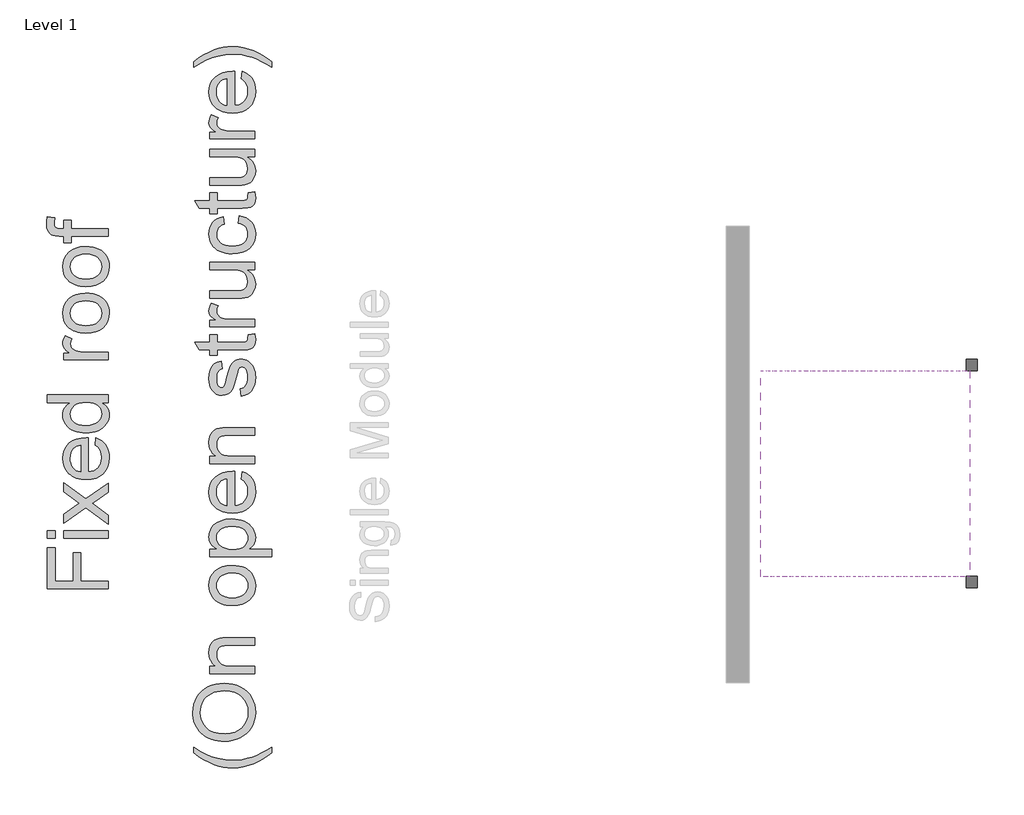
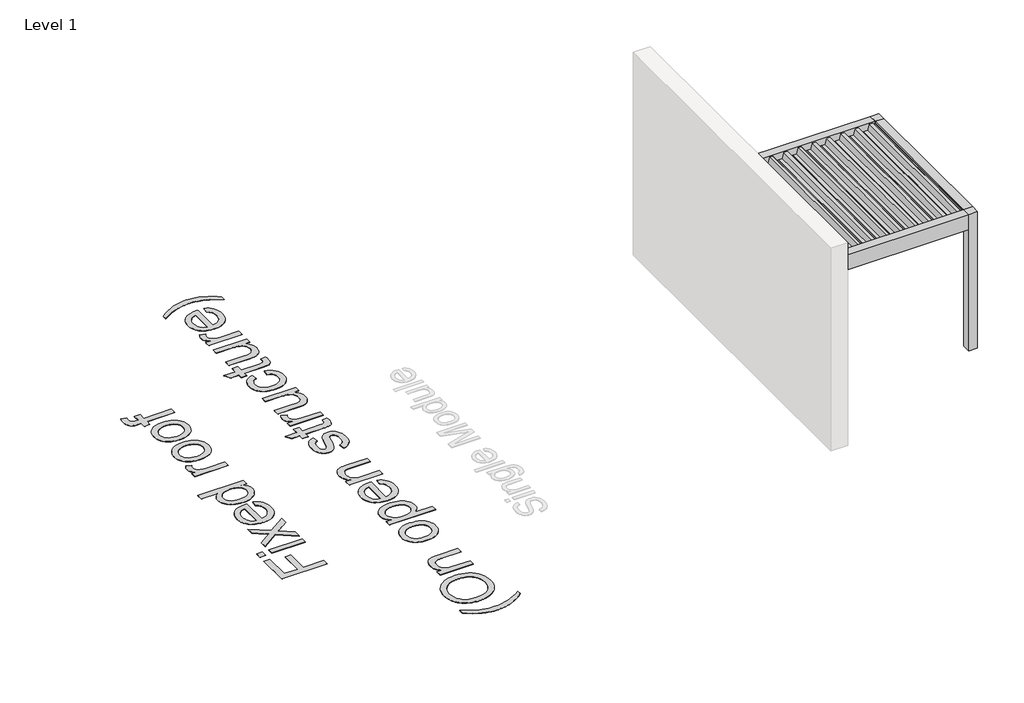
# One storey, part 72 of 80: 3 proxies.
"""IFC4 building model written with IfcOpenShell, lengths in millimetres."""

from ifc_helpers import new_model, si_unit, origin, origin_with_axes, place, context, project, spatial, polyline, outline, extrude, transform, mapped, element, save
from components import generic_models_15760fd8, generic_models_d4e71780

model = new_model("IFC4")

# Units and contexts
model_context = context("Model", 3, world=origin())
ifc_project = project(units=[si_unit("LENGTHUNIT", "METRE", prefix="MILLI")], contexts=[model_context])

# Site, building, storey
site = spatial("IfcSite", under=ifc_project)
building = spatial("IfcBuilding", under=site)
storey = spatial("IfcBuildingStorey", under=building, Name="Level 1", Elevation=0.0)

# Proxies
placement = place(None, origin())
generic_models_shape = generic_models_15760fd8(model_context)
element("IfcBuildingElementProxy", 1, Name="Renson_Amani_Fixed_Roof : Renson_Amani_Fixed_Roof", ObjectType="Renson_Amani_Fixed_Roof : Renson_Amani_Fixed_Roof", at=placement, inside=storey, context=model_context, shape_type="MappedRepresentation", body=[
    mapped(generic_models_shape, transform((225303.165057, 66168.5861401, 0.0), x_axis=(1.0, 0.0, 0.0), y_axis=(0.0, 1.0, 0.0), z_axis=(0.0, 0.0, 1.0))),
])
generic_models_2_shape = generic_models_d4e71780(model_context)
element("IfcBuildingElementProxy", 2, Name="Renson_Amani_Patio_Cover : Renson_Amani_Patio_Cover", ObjectType="Renson_Amani_Patio_Cover : Renson_Amani_Patio_Cover", at=placement, inside=storey, context=model_context, shape_type="MappedRepresentation", body=[
    mapped(generic_models_2_shape, transform((226653.165057, 67528.5861401, 0.0), x_axis=(1.0, 0.0, 0.0), y_axis=(0.0, 1.0, 0.0), z_axis=(0.0, 0.0, 1.0))),
])
element("IfcBuildingElementProxy", 3, Name="800mm Arial", ObjectType="800mm Arial", at=placement, inside=storey, context=model_context, shape_type="SweptSolid", body=[
    extrude(outline(polyline([(216731.971127, 66013.7751549), (215932.5824286, 66013.7751549), (215932.5824286, 66550.8644366), (216032.5060159, 66550.8644366), (216032.5060159, 66113.6987422), (216269.8245357, 66113.6987422), (216269.8245357, 66488.4121945), (216369.748123, 66488.4121945), (216369.748123, 66113.6987422), (216731.971127, 66113.6987422), (216731.971127, 66013.7751549)])), origin_with_axes(), (0.0, 0.0, 1.0), 5.0),
    extrude(outline(polyline([(216032.5060159, 66675.7689207), (215932.5824286, 66675.7689207), (215932.5824286, 66775.692508), (216032.5060159, 66775.692508), (216032.5060159, 66675.7689207)])), origin_with_axes(), (0.0, 0.0, 1.0), 5.0),
    extrude(outline(polyline([(216731.971127, 66675.7689207), (216144.9200516, 66675.7689207), (216144.9200516, 66775.692508), (216731.971127, 66775.692508), (216731.971127, 66675.7689207)])), origin_with_axes(), (0.0, 0.0, 1.0), 5.0),
    extrude(outline(polyline([(216731.971127, 66863.1256469), (216436.8842832, 67076.6342494), (216144.9200516, 66875.6160953), (216144.9200516, 66995.8366612), (216285.4375962, 67092.8327997), (216351.7931034, 67138.1106752), (216297.5377181, 67177.3384897), (216144.9200516, 67287.8008929), (216144.9200516, 67408.0214588), (216436.8842832, 67196.8548154), (216731.971127, 67400.2149286), (216731.971127, 67279.9943626), (216554.5677269, 67157.6270008), (216522.1706263, 67135.1832263), (216731.971127, 66983.3462128), (216731.971127, 66863.1256469)])), origin_with_axes(), (0.0, 0.0, 1.0), 5.0),
    extrude(outline(polyline([(216557.1048492, 67898.6618855), (216569.5952976, 67996.6338402), (216608.8353099, 67981.6123683), (216643.4157994, 67961.3336862), (216673.3367661, 67935.7977939), (216698.5982101, 67905.0046913), (216718.6634324, 67869.2715188), (216732.9957341, 67828.9154167), (216741.595115, 67783.936385), (216744.4615754, 67734.3344236), (216739.5154066, 67672.3334965), (216724.6769002, 67617.0900973), (216699.9460563, 67568.6042258), (216665.3228749, 67526.875882), (216621.7709744, 67493.3199996), (216570.2539736, 67469.3515122), (216510.7718723, 67454.9704197), (216443.3246707, 67450.1767222), (216373.5903996, 67455.0192105), (216312.1261716, 67469.5466754), (216258.9319865, 67493.7591169), (216235.4361601, 67509.4972039), (216214.0078444, 67527.656535), (216178.3173639, 67569.2750995), (216152.8241635, 67616.6509799), (216137.5282433, 67669.7841765), (216132.4296032, 67728.6746891), (216137.5160456, 67785.6684589), (216152.7753727, 67837.2098551), (216178.2075845, 67883.2988779), (216213.8126811, 67923.9355272), (216258.6392416, 67957.1071819), (216311.735845, 67980.801221), (216373.1024915, 67995.0176445), (216442.7391809, 67999.7564523), (216469.6717103, 67999.1709626), (216469.6717103, 67550.1003095), (216509.5460031, 67555.8881198), (216544.4680283, 67567.3966531), (216574.4377859, 67584.6259093), (216599.4552758, 67607.5758885), (216619.1789624, 67634.9780295), (216633.26731, 67665.5637711), (216641.7203186, 67699.3331133), (216644.5379881, 67736.2860561), (216639.317371, 67789.4680435), (216623.6555196, 67834.2580109), (216611.6651771, 67853.505987), (216596.5766178, 67870.6559582), (216578.3898419, 67885.7079243), (216557.1048492, 67898.6618855)]), holes=[polyline([(216369.748123, 67550.1003095), (216369.748123, 67899.832865), (216341.4738462, 67894.6976318), (216316.9564622, 67886.3178095), (216296.1959708, 67874.6933981), (216279.192372, 67859.8243975), (216258.7002301, 67832.5747278), (216244.0629859, 67801.5681654), (216235.2806393, 67766.8047104), (216232.3531905, 67728.2843626), (216234.6890507, 67693.1488776), (216241.6966314, 67660.9286438), (216253.3759325, 67631.623661), (216269.7269541, 67605.2339294), (216289.9934385, 67583.0889987), (216313.4191281, 67566.5184185), (216340.004023, 67555.5221887), (216369.748123, 67550.1003095)])]), origin_with_axes(), (0.0, 0.0, 1.0), 5.0),
    extrude(outline(polyline([(216731.971127, 68461.9030436), (216637.7072741, 68461.9030436), (216684.4122809, 68432.0064722), (216702.7606764, 68414.6887826), (216717.7730001, 68395.7914904), (216729.4492518, 68375.3145956), (216737.7894315, 68353.2580982), (216742.7935394, 68329.6219982), (216744.4615754, 68304.4062956), (216742.0464301, 68271.4237053), (216734.8009942, 68239.8072577), (216722.7252677, 68209.556953), (216705.8192506, 68180.672791), (216684.5891476, 68154.0574019), (216659.5411634, 68130.6134158), (216630.675298, 68110.3408325), (216597.9915514, 68093.2396522), (216562.1120065, 68079.6636081), (216523.6587461, 68069.9664338), (216482.6317703, 68064.1481292), (216439.0310791, 68062.2086944), (216396.2293374, 68063.9956579), (216355.4524145, 68069.3565486), (216316.7003104, 68078.2913665), (216279.9730251, 68090.8001114), (216246.3439564, 68106.8766847), (216216.8865024, 68126.5149874), (216191.600663, 68149.7150195), (216170.4864382, 68176.476781), (216153.8365729, 68205.85495), (216141.943812, 68236.9042043), (216134.8081554, 68269.624544), (216132.4296032, 68304.0159691), (216134.1311828, 68329.1676338), (216139.2359218, 68352.9043648), (216147.74382, 68375.2261623), (216159.6548775, 68396.1330261), (216190.9541847, 68432.7749275), (216230.4015579, 68461.9030436), (215932.5824286, 68461.9030436), (215932.5824286, 68561.8266308), (216731.971127, 68561.8266308), (216731.971127, 68461.9030436)]), holes=[polyline([(216438.6407525, 68162.1322817), (216487.0961298, 68164.9499512), (216529.0257357, 68173.4029597), (216564.4295702, 68187.4913073), (216593.3076333, 68207.2149939), (216615.7209135, 68230.7687594), (216631.7303994, 68256.3473437), (216641.3360909, 68283.9507468), (216644.5379881, 68313.5789687), (216641.4824633, 68343.3474641), (216632.3158891, 68370.7861982), (216617.0382655, 68395.8951709), (216595.6495923, 68418.6743823), (216567.9791019, 68437.5869216), (216533.8560263, 68451.0958782), (216493.2803655, 68459.2012522), (216446.2521195, 68461.9030436), (216394.6924267, 68459.1524614), (216350.4757514, 68450.900715), (216313.6020937, 68437.1478042), (216284.0714534, 68417.8937292), (216261.4447134, 68394.614412), (216245.2827562, 68368.7857748), (216235.5855819, 68340.4078176), (216232.3531905, 68309.4805403), (216235.457506, 68279.2668286), (216244.7704527, 68251.6634256), (216260.2920304, 68226.670331), (216282.0222393, 68204.2875451), (216310.4367896, 68185.8446173), (216346.011392, 68172.6710975), (216388.7460463, 68164.7669856), (216438.6407525, 68162.1322817)])]), origin_with_axes(), (0.0, 0.0, 1.0), 5.0),
    extrude(outline(polyline([(216731.971127, 69023.9732221), (216144.9200516, 69023.9732221), (216144.9200516, 69111.406361), (216231.7677007, 69111.406361), (216181.4155806, 69143.7058799), (216163.9972599, 69158.9042185), (216151.7507656, 69173.4682765), (216137.2598938, 69203.3282547), (216132.4296032, 69235.9205186), (216134.3568404, 69260.7062521), (216140.1385518, 69285.6871489), (216149.7747376, 69310.863209), (216163.2653977, 69336.2344324), (216252.8453324, 69302.8615155), (216237.476226, 69267.7321294), (216232.3531905, 69232.6027432), (216237.2810627, 69202.7671604), (216252.0646794, 69176.1029805), (216275.5818518, 69154.561836), (216306.7103912, 69140.0953597), (216362.5270825, 69127.9464469), (216423.4180185, 69123.8968094), (216731.971127, 69123.8968094), (216731.971127, 69023.9732221)])), origin_with_axes(), (0.0, 0.0, 1.0), 5.0),
    extrude(outline(polyline([(216438.4455893, 69373.7057776), (216362.4173032, 69379.1093603), (216328.3460678, 69385.8638386), (216296.9034376, 69395.3201082), (216268.0894124, 69407.4781692), (216241.9039924, 69422.3380216), (216218.3471774, 69439.8996652), (216197.4189676, 69460.1631002), (216168.9861207, 69498.2443306), (216148.6769443, 69540.277617), (216136.4914385, 69586.2629593), (216132.4296032, 69636.2003575), (216137.375772, 69691.3278786), (216152.2142783, 69741.1737941), (216176.9451222, 69785.7381039), (216211.5683037, 69825.0208081), (216254.9128432, 69857.0824718), (216305.8077611, 69879.9836602), (216364.2530576, 69893.7243732), (216430.2487325, 69898.3046109), (216483.7356625, 69896.2797921), (216531.1969269, 69890.2053357), (216572.6325258, 69880.0812418), (216608.0424591, 69865.9075103), (216638.6282007, 69847.861008), (216665.5912244, 69826.1186014), (216688.9315301, 69800.6802907), (216708.6491178, 69771.5460758), (216724.317068, 69739.8503432), (216735.508461, 69706.7274793), (216742.2232968, 69672.1774841), (216744.4615754, 69636.2003575), (216739.5337031, 69580.267788), (216724.7500865, 69529.9583598), (216700.1107253, 69485.2720729), (216665.6156198, 69446.2089274), (216621.8502595, 69414.4887993), (216569.4001344, 69391.831565), (216508.2652443, 69378.2372245), (216438.4455893, 69373.7057776)]), holes=[polyline([(216438.250426, 69473.6293649), (216486.718001, 69476.5202206), (216528.6842, 69485.1927878), (216564.149023, 69499.6470665), (216593.11247, 69519.8830567), (216615.6111342, 69544.4980224), (216631.6816086, 69572.0892278), (216641.3238932, 69602.6566728), (216644.5379881, 69636.2003575), (216641.3055966, 69669.5732743), (216631.6084223, 69700.0187424), (216615.4464652, 69727.5367615), (216592.8197251, 69752.1273318), (216563.5696321, 69772.363322), (216527.5376158, 69786.8176006), (216484.7236765, 69795.4901679), (216435.1278139, 69798.3810236), (216388.1971496, 69795.4718713), (216347.3287439, 69786.7444144), (216312.5225969, 69772.198653), (216283.7787086, 69751.8345869), (216261.2800444, 69727.1525338), (216245.20957, 69699.6528112), (216235.5672854, 69669.3354191), (216232.3531905, 69636.2003575), (216235.5550877, 69602.6566728), (216245.1607792, 69572.0892278), (216261.1702651, 69544.4980224), (216283.5835453, 69519.8830567), (216312.4616084, 69499.6470665), (216347.8654429, 69485.1927878), (216389.7950488, 69476.5202206), (216438.250426, 69473.6293649)])]), origin_with_axes(), (0.0, 0.0, 1.0), 5.0),
    extrude(outline(polyline([(216438.4455893, 69985.7377498), (216362.4173032, 69991.1413324), (216328.3460678, 69997.8958108), (216296.9034376, 70007.3520804), (216268.0894124, 70019.5101414), (216241.9039924, 70034.3699937), (216218.3471774, 70051.9316374), (216197.4189676, 70072.1950724), (216168.9861207, 70110.2763028), (216148.6769443, 70152.3095891), (216136.4914385, 70198.2949314), (216132.4296032, 70248.2323297), (216137.375772, 70303.3598508), (216152.2142783, 70353.2057662), (216176.9451222, 70397.7700761), (216211.5683037, 70437.0527803), (216254.9128432, 70469.114444), (216305.8077611, 70492.0156324), (216364.2530576, 70505.7563454), (216430.2487325, 70510.3365831), (216483.7356625, 70508.3117643), (216531.1969269, 70502.2373079), (216572.6325258, 70492.113214), (216608.0424591, 70477.9394825), (216638.6282007, 70459.8929801), (216665.5912244, 70438.1505736), (216688.9315301, 70412.7122629), (216708.6491178, 70383.578048), (216724.317068, 70351.8823154), (216735.508461, 70318.7594515), (216742.2232968, 70284.2094562), (216744.4615754, 70248.2323297), (216739.5337031, 70192.2997601), (216724.7500865, 70141.9903319), (216700.1107253, 70097.3040451), (216665.6156198, 70058.2408995), (216621.8502595, 70026.5207715), (216569.4001344, 70003.8635372), (216508.2652443, 69990.2691966), (216438.4455893, 69985.7377498)]), holes=[polyline([(216438.250426, 70085.6613371), (216486.718001, 70088.5521928), (216528.6842, 70097.22476), (216564.149023, 70111.6790387), (216593.11247, 70131.9150288), (216615.6111342, 70156.5299946), (216631.6816086, 70184.1211999), (216641.3238932, 70214.688645), (216644.5379881, 70248.2323297), (216641.3055966, 70281.6052465), (216631.6084223, 70312.0507145), (216615.4464652, 70339.5687337), (216592.8197251, 70364.159304), (216563.5696321, 70384.3952941), (216527.5376158, 70398.8495728), (216484.7236765, 70407.52214), (216435.1278139, 70410.4129958), (216388.1971496, 70407.5038435), (216347.3287439, 70398.7763866), (216312.5225969, 70384.2306251), (216283.7787086, 70363.8665591), (216261.2800444, 70339.184506), (216245.20957, 70311.6847834), (216235.5672854, 70281.3673913), (216232.3531905, 70248.2323297), (216235.5550877, 70214.688645), (216245.1607792, 70184.1211999), (216261.1702651, 70156.5299946), (216283.5835453, 70131.9150288), (216312.4616084, 70111.6790387), (216347.8654429, 70097.22476), (216389.7950488, 70088.5521928), (216438.250426, 70085.6613371)])]), origin_with_axes(), (0.0, 0.0, 1.0), 5.0),
    extrude(outline(polyline([(216731.971127, 70647.7315156), (216244.8436389, 70647.7315156), (216244.8436389, 70560.2983767), (216144.9200516, 70560.2983767), (216144.9200516, 70647.7315156), (216085.7855849, 70647.7315156), (216036.8483984, 70650.3662195), (216002.4508744, 70658.2703314), (215984.9715653, 70666.9550963), (215969.22433, 70678.3721468), (215942.9260812, 70709.4031046), (215932.936162, 70729.382943), (215925.8005055, 70752.8269292), (215921.5191115, 70779.7350632), (215920.0919802, 70810.1073449), (215922.8242658, 70853.4823787), (215931.0211226, 70901.2485857), (216024.6994857, 70886.6113415), (216020.0155675, 70829.0381808), (216024.1627867, 70791.054532), (216029.3468107, 70776.9478879), (216036.6044443, 70766.0980306), (216046.6919451, 70758.0292497), (216060.3655708, 70752.2658348), (216098.4711966, 70747.6551029), (216144.9200516, 70747.6551029), (216144.9200516, 70860.0691386), (216244.8436389, 70860.0691386), (216244.8436389, 70747.6551029), (216731.971127, 70747.6551029), (216731.971127, 70647.7315156)])), origin_with_axes(), (0.0, 0.0, 1.0), 5.0),
    extrude(outline(polyline([(218878.3354941, 63859.1728039), (218826.1415207, 63818.8349983), (218769.6783511, 63781.7417819), (218708.9459852, 63747.8931546), (218643.9444231, 63717.2891165), (218576.1983777, 63691.9300908), (218507.232562, 63673.8165011), (218437.0469759, 63662.9483472), (218365.6416195, 63659.3256293), (218302.8844348, 63662.0335195), (218241.4689976, 63670.15719), (218181.3953077, 63683.6966409), (218122.6633652, 63702.6518722), (218055.3076463, 63731.462848), (217988.0982999, 63767.1533285), (217921.0353259, 63809.7233138), (217854.1187244, 63859.1728039), (217854.1187244, 63934.1154943), (217949.1144394, 63875.3225633), (218012.3961253, 63840.6322945), (218087.5339791, 63808.7231021), (218165.7944449, 63784.4252767), (218265.766823, 63765.5432316), (218366.2271092, 63759.2492166), (218430.2833493, 63761.9815022), (218494.3273917, 63770.1783589), (218558.3592363, 63783.8397869), (218622.3788833, 63802.965786), (218686.3863326, 63827.5563563), (218750.3815841, 63857.6114978), (218814.364638, 63893.1312105), (218878.3354941, 63934.1154943), (218878.3354941, 63859.1728039)])), origin_with_axes(), (0.0, 0.0, 1.0), 5.0),
    extrude(outline(polyline([(218264.3518894, 64009.0581848), (218216.1252191, 64010.7231714), (218170.5881424, 64015.7181309), (218127.7406593, 64024.0430636), (218087.5827699, 64035.6979693), (218050.1144741, 64050.6828481), (218015.3357719, 64068.9977), (217983.2466633, 64090.6425249), (217953.8471484, 64115.6173228), (217927.5458502, 64143.2237753), (217904.7513917, 64172.7635639), (217885.463773, 64204.2366884), (217869.6829941, 64237.6431489), (217857.4090549, 64272.9829455), (217848.6419555, 64310.256078), (217843.3816958, 64349.4625466), (217841.6282759, 64390.6023511), (217844.9216559, 64444.382026), (217854.8017958, 64495.4538107), (217871.2686955, 64543.8177051), (217894.3223552, 64589.4737094), (217923.2675057, 64631.1410647), (217957.4088778, 64667.539012), (217996.7464717, 64698.6675514), (218041.2802873, 64724.5266829), (218089.9979152, 64744.848057), (218141.886946, 64759.3633242), (218196.9473797, 64768.0724845), (218255.1792163, 64770.9755379), (218314.1795083, 64767.9200132), (218369.9840019, 64758.753439), (218422.5926972, 64743.4758153), (218472.0055942, 64722.0871422), (218516.9175386, 64695.0936243), (218556.0233761, 64663.0014663), (218589.3231067, 64625.8106683), (218616.8167305, 64583.5212301), (218638.3334795, 64537.7981385), (218653.702586, 64490.3063798), (218662.9240498, 64441.0459541), (218665.9978711, 64390.0168614), (218662.6008107, 64335.2979634), (218652.4096294, 64283.555305), (218635.4243272, 64234.7888863), (218611.6449042, 64188.9987072), (218581.9922869, 64147.3801428), (218547.387402, 64111.1285679), (218507.8302495, 64080.2439826), (218463.3208293, 64054.7263868), (218415.6461051, 64034.7465484), (218366.5930403, 64020.4752353), (218316.1616351, 64011.9124474), (218264.3518894, 64009.0581848)]), holes=[polyline([(218265.3277057, 64108.9817721), (218331.5734335, 64113.9767317), (218390.3785622, 64128.9616105), (218441.7430918, 64153.9364085), (218485.6670222, 64188.9011256), (218520.8451991, 64231.4040236), (218545.9724684, 64278.9933639), (218561.04883, 64331.6691466), (218566.0742838, 64389.4313716), (218561.0000392, 64448.1816106), (218545.7773052, 64501.4794762), (218520.4060818, 64549.3249683), (218484.8863691, 64591.7180869), (218463.5251408, 64610.3119612), (218440.0354133, 64626.4266523), (218386.6704603, 64651.2184847), (218324.7915104, 64666.0935842), (218254.3985633, 64671.0519506), (218208.6693728, 64668.9295502), (218165.9408173, 64662.562349), (218126.2128969, 64651.9503469), (218089.4856116, 64637.093544), (218056.2407707, 64618.1566093), (218026.9601833, 64595.3042117), (218001.6438497, 64568.5363513), (217980.2917696, 64537.8530281), (217963.3430606, 64504.2056629), (217951.2368398, 64468.5456767), (217943.9731074, 64430.8730693), (217941.5518632, 64391.1878409), (217946.2174848, 64335.4321381), (217960.2143496, 64283.7016774), (217983.5424576, 64235.9964589), (218016.2018088, 64192.3164826), (218036.4240766, 64172.7849098), (218059.765907, 64155.8575468), (218086.2273001, 64141.5343934), (218115.8082558, 64129.8154497), (218148.5087743, 64120.7007158), (218184.3288554, 64114.1901915), (218265.3277057, 64108.9817721)])]), origin_with_axes(), (0.0, 0.0, 1.0), 5.0),
    extrude(outline(polyline([(218653.5074227, 64895.880022), (218066.4563474, 64895.880022), (218066.4563474, 64995.8036093), (218148.4249151, 64995.8036093), (218126.2860832, 65012.2888057), (218107.0990955, 65030.5182736), (218090.8639521, 65050.4920131), (218077.580653, 65072.2100242), (218067.2491981, 65095.672307), (218059.8695875, 65120.8788613), (218053.9658989, 65176.5247848), (218058.7230033, 65225.7791116), (218072.9943164, 65270.8862193), (218094.9989736, 65308.503937), (218122.9561101, 65335.2900939), (218156.7925397, 65353.4646722), (218196.4350761, 65365.2476538), (218234.3455387, 65369.1997097), (218293.0408881, 65370.5170617), (218653.5074227, 65370.5170617), (218653.5074227, 65270.5934744), (218306.5071528, 65270.5934744), (218254.8376806, 65267.7148164), (218218.0981976, 65259.0788423), (218191.7755534, 65243.1486415), (218171.3565977, 65218.3873033), (218158.2562641, 65186.6488787), (218153.8894862, 65149.7874187), (218156.3412246, 65119.4456311), (218163.6964399, 65091.2628371), (218175.9551319, 65065.2390367), (218193.1173008, 65041.3742297), (218217.134579, 65021.4370833), (218249.9585992, 65007.1962644), (218291.5893614, 64998.6517731), (218342.0268654, 64995.8036093), (218653.5074227, 64995.8036093), (218653.5074227, 64895.880022)])), origin_with_axes(), (0.0, 0.0, 1.0), 5.0),
    extrude(outline(polyline([(218359.981885, 65795.1923077), (218283.9535989, 65800.5958903), (218249.8823636, 65807.3503687), (218218.4397333, 65816.8066383), (218189.6257081, 65828.9646993), (218163.4402881, 65843.8245516), (218139.8834732, 65861.3861953), (218118.9552633, 65881.6496303), (218090.5224164, 65919.7308607), (218070.21324, 65961.764147), (218058.0277342, 66007.7494893), (218053.9658989, 66057.6868876), (218058.9120677, 66112.8144087), (218073.7505741, 66162.6603241), (218098.481418, 66207.224634), (218133.1045994, 66246.5073382), (218176.4491389, 66278.5690019), (218227.3440569, 66301.4701903), (218285.7893533, 66315.2109033), (218351.7850283, 66319.791141), (218405.2719582, 66317.7663222), (218452.7332226, 66311.6918658), (218494.1688215, 66301.5677719), (218529.5787549, 66287.3940404), (218560.1644965, 66269.347538), (218587.1275201, 66247.6051315), (218610.4678258, 66222.1668208), (218630.1854136, 66193.0326059), (218645.8533637, 66161.3368733), (218657.0447567, 66128.2140094), (218663.7595925, 66093.6640141), (218665.9978711, 66057.6868876), (218661.0699989, 66001.7543181), (218646.2863822, 65951.4448899), (218621.6470211, 65906.758603), (218587.1519155, 65867.6954574), (218543.3865553, 65835.9753294), (218490.9364301, 65813.3180951), (218429.80154, 65799.7237545), (218359.981885, 65795.1923077)]), holes=[polyline([(218359.7867218, 65895.115895), (218408.2542967, 65898.0067507), (218450.2204957, 65906.6793179), (218485.6853187, 65921.1335966), (218514.6487658, 65941.3695867), (218537.1474299, 65965.9845525), (218553.2179043, 65993.5757578), (218562.8601889, 66024.1432029), (218566.0742838, 66057.6868876), (218562.8418924, 66091.0598044), (218553.1447181, 66121.5052724), (218536.9827609, 66149.0232916), (218514.3560209, 66173.6138619), (218485.1059278, 66193.849852), (218449.0739116, 66208.3041307), (218406.2599722, 66216.9766979), (218356.6641097, 66219.8675537), (218309.7334454, 66216.9584014), (218268.8650397, 66208.2309445), (218234.0588927, 66193.6851831), (218205.3150043, 66173.321117), (218182.8163402, 66148.6390639), (218166.7458658, 66121.1393413), (218157.1035811, 66090.8219492), (218153.8894862, 66057.6868876), (218157.0913834, 66024.1432029), (218166.6970749, 65993.5757578), (218182.7065608, 65965.9845525), (218205.1198411, 65941.3695867), (218233.9979042, 65921.1335966), (218269.4017386, 65906.6793179), (218311.3313445, 65898.0067507), (218359.7867218, 65895.115895)])]), origin_with_axes(), (0.0, 0.0, 1.0), 5.0),
    extrude(outline(polyline([(218878.3354941, 66432.2051767), (218066.4563474, 66432.2051767), (218066.4563474, 66532.128764), (218164.4283021, 66532.128764), (218116.1010007, 66564.7210278), (218097.1152752, 66582.4808841), (218081.5814997, 66601.2165567), (218069.4996744, 66621.4647446), (218060.8697991, 66643.7621466), (218055.691874, 66668.1087629), (218053.9658989, 66694.5045933), (218056.3810442, 66729.3534323), (218063.6264801, 66762.0798709), (218075.7022066, 66792.683909), (218092.6082237, 66821.1655467), (218113.9054141, 66846.9027012), (218139.1546604, 66869.2732894), (218168.3559626, 66888.2773115), (218201.5093208, 66903.9147675), (218237.4803485, 66916.1246687), (218275.1346593, 66924.8460267), (218314.4722532, 66930.0788415), (218355.4931301, 66931.8231131), (218399.3499732, 66929.853184), (218440.950241, 66923.9433967), (218480.2939338, 66914.0937511), (218517.3810513, 66900.3042472), (218551.2418763, 66882.7639495), (218580.9066913, 66861.6619224), (218606.3754963, 66836.9981659), (218627.6482912, 66808.77268), (218644.4262324, 66778.3699039), (218656.4104761, 66747.1742771), (218663.6010224, 66715.1857996), (218665.9978711, 66682.4044714), (218664.3938731, 66658.8202116), (218659.5818791, 66636.4679199), (218651.561889, 66615.3475963), (218640.3339029, 66595.4592407), (218611.2789731, 66560.3542499), (218575.4421201, 66532.128764), (218878.3354941, 66532.128764), (218878.3354941, 66432.2051767)]), holes=[polyline([(218364.6658032, 66532.128764), (218412.8223367, 66534.8305553), (218454.2457379, 66542.9359293), (218488.9360067, 66556.4448859), (218516.8931432, 66575.3574253), (218538.4098922, 66598.1244389), (218553.7789987, 66623.1968185), (218563.0004625, 66650.5745641), (218566.0742838, 66680.2576756), (218562.8906832, 66710.3677067), (218553.3398813, 66738.2455582), (218537.4218782, 66763.8912298), (218515.1366739, 66787.3047217), (218486.167128, 66806.8149485), (218450.1961003, 66820.7508248), (218407.2235908, 66829.1123506), (218357.2495994, 66831.8995258), (218309.5077878, 66829.179438), (218268.1575729, 66821.0191743), (218233.1989546, 66807.4187349), (218204.6319329, 66788.3781197), (218182.4321125, 66765.5562164), (218166.5750979, 66740.6119126), (218157.0608892, 66713.5452085), (218153.8894862, 66684.356104), (218157.2621513, 66655.2584822), (218167.3801463, 66627.8807366), (218184.2434715, 66602.2228673), (218207.8521266, 66578.2848741), (218237.8889716, 66558.0915759), (218274.036866, 66543.6677915), (218316.2958098, 66535.0135208), (218364.6658032, 66532.128764)])]), origin_with_axes(), (0.0, 0.0, 1.0), 5.0),
    extrude(outline(polyline([(218478.6411449, 67455.2509669), (218491.1315934, 67553.2229216), (218530.3716056, 67538.2014497), (218564.9520951, 67517.9227676), (218594.8730618, 67492.3868753), (218620.1345059, 67461.5937727), (218640.1997282, 67425.8606002), (218654.5320298, 67385.5044981), (218663.1314108, 67340.5254664), (218665.9978711, 67290.923505), (218661.0517023, 67228.9225779), (218646.213196, 67173.6791787), (218621.4823521, 67125.1933071), (218586.8591706, 67083.4649634), (218543.3072702, 67049.909081), (218491.7902693, 67025.9405935), (218432.3081681, 67011.5595011), (218364.8609664, 67006.7658036), (218295.1266954, 67011.6082919), (218233.6624673, 67026.1357568), (218180.4682822, 67050.3481983), (218156.9724558, 67066.0862853), (218135.5441401, 67084.2456164), (218099.8536596, 67125.8641808), (218074.3604592, 67173.2400613), (218059.064539, 67226.3732579), (218053.9658989, 67285.2637705), (218059.0523413, 67342.2575403), (218074.3116684, 67393.7989365), (218099.7438803, 67439.8879593), (218135.3489769, 67480.5246086), (218180.1755373, 67513.6962633), (218233.2721408, 67537.3903024), (218294.6387872, 67551.6067259), (218364.2754767, 67556.3455337), (218391.2080061, 67555.7600439), (218391.2080061, 67106.6893909), (218431.0822989, 67112.4772012), (218466.0043241, 67123.9857345), (218495.9740817, 67141.2149907), (218520.9915716, 67164.1649699), (218540.7152582, 67191.5671109), (218554.8036058, 67222.1528525), (218563.2566143, 67255.9221947), (218566.0742838, 67292.8751375), (218560.8536667, 67346.0571249), (218545.1918154, 67390.8470923), (218533.2014728, 67410.0950684), (218518.1129136, 67427.2450396), (218499.9261376, 67442.2970057), (218478.6411449, 67455.2509669)]), holes=[polyline([(218291.2844188, 67106.6893909), (218291.2844188, 67456.4219464), (218263.010142, 67451.2867132), (218238.4927579, 67442.9068909), (218217.7322665, 67431.2824795), (218200.7286678, 67416.4134789), (218180.2365259, 67389.1638092), (218165.5992816, 67358.1572468), (218156.8169351, 67323.3937918), (218153.8894862, 67284.873444), (218156.2253465, 67249.737959), (218163.2329271, 67217.5177251), (218174.9122283, 67188.2127424), (218191.2632498, 67161.8230108), (218211.5297343, 67139.6780801), (218234.9554239, 67123.1074998), (218261.5403187, 67112.1112701), (218291.2844188, 67106.6893909)])]), origin_with_axes(), (0.0, 0.0, 1.0), 5.0),
    extrude(outline(polyline([(218653.5074227, 67656.269121), (218066.4563474, 67656.269121), (218066.4563474, 67756.1927083), (218148.4249151, 67756.1927083), (218126.2860832, 67772.6779046), (218107.0990955, 67790.9073725), (218090.8639521, 67810.8811121), (218077.580653, 67832.5991232), (218067.2491981, 67856.0614059), (218059.8695875, 67881.2679603), (218053.9658989, 67936.9138838), (218058.7230033, 67986.1682106), (218072.9943164, 68031.2753182), (218094.9989736, 68068.8930359), (218122.9561101, 68095.6791929), (218156.7925397, 68113.8537711), (218196.4350761, 68125.6367527), (218234.3455387, 68129.5888087), (218293.0408881, 68130.9061606), (218653.5074227, 68130.9061606), (218653.5074227, 68030.9825734), (218306.5071528, 68030.9825734), (218254.8376806, 68028.1039153), (218218.0981976, 68019.4679412), (218191.7755534, 68003.5377404), (218171.3565977, 67978.7764023), (218158.2562641, 67947.0379777), (218153.8894862, 67910.1765176), (218156.3412246, 67879.8347301), (218163.6964399, 67851.6519361), (218175.9551319, 67825.6281356), (218193.1173008, 67801.7633287), (218217.134579, 67781.8261823), (218249.9585992, 67767.5853634), (218291.5893614, 67759.0408721), (218342.0268654, 67756.1927083), (218653.5074227, 67756.1927083), (218653.5074227, 67656.269121)])), origin_with_axes(), (0.0, 0.0, 1.0), 5.0),
    extrude(outline(polyline([(218478.6411449, 68543.0909582), (218466.1506965, 68643.0145455), (218488.9360067, 68649.0524088), (218508.8914497, 68658.7739785), (218526.0170254, 68672.1792547), (218540.312734, 68689.2682373), (218551.583412, 68710.0897172), (218559.6338964, 68734.6924852), (218564.464187, 68763.0765413), (218566.0742838, 68795.2418855), (218564.5983617, 68827.3706366), (218560.1705953, 68855.0594236), (218552.7909847, 68878.3082466), (218542.4595298, 68897.1171054), (218530.1398492, 68911.6323726), (218516.7955616, 68922.0004206), (218502.4266668, 68928.2212494), (218487.033165, 68930.294859), (218473.5425049, 68928.2090517), (218461.56436, 68921.9516298), (218451.0987304, 68911.5225933), (218442.145616, 68896.9219421), (218429.4600043, 68859.4993877), (218413.6517805, 68794.070906), (218387.2803455, 68702.8808744), (218364.7633848, 68643.6000353), (218340.1972099, 68605.5188049), (218324.9317839, 68590.4119491), (218307.6781323, 68577.9275995), (218269.2797616, 68561.1679549), (218227.0757074, 68555.5814066), (218188.3601964, 68560.0701615), (218152.6209251, 68573.5364262), (218121.272827, 68594.7604304), (218095.7308358, 68622.5224036), (218079.6542626, 68650.113609), (218066.1636025, 68686.0480436), (218057.0153248, 68727.5934218), (218053.9658989, 68772.017458), (218058.8693758, 68837.0556132), (218073.5798062, 68893.6041668), (218096.6578613, 68939.0772055), (218110.7949997, 68956.6906894), (218126.664212, 68970.8888163), (218165.8188403, 68991.966448), (218216.3417283, 69005.2375495), (218228.8321767, 68905.3139622), (218212.1396194, 68900.5507589), (218197.386497, 68892.7015367), (218184.5728095, 68881.7662955), (218173.6985568, 68867.7450353), (218165.0320884, 68850.5767676), (218158.8417539, 68830.2005038), (218153.8894862, 68779.8239883), (218158.6221952, 68722.4459909), (218164.5380814, 68700.9292419), (218172.8203221, 68684.1939926), (218193.312464, 68662.6772436), (218204.7295145, 68657.2980564), (218216.9272181, 68655.5049939), (218232.2963245, 68658.4812336), (218246.0065433, 68667.4099526), (218258.2530376, 68682.6814774), (218268.0599913, 68704.6861346), (218289.3327862, 68790.7531306), (218315.4358717, 68879.0401088), (218336.367131, 68937.4183178), (218358.8596963, 68976.1582242), (218389.6467, 69005.5302943), (218408.1750117, 69016.3313608), (218428.8257237, 69024.0464083), (218451.5988362, 69028.6754368), (218476.4943491, 69030.2184463), (218501.4996413, 69028.4070873), (218525.7730714, 69022.9730104), (218549.3146392, 69013.9162155), (218572.1243448, 69001.2367027), (218593.2934592, 68985.1418329), (218611.9132537, 68965.8389671), (218627.9837281, 68943.3281052), (218641.5048824, 68917.6092473), (218652.220565, 68889.3837614), (218659.8746239, 68859.3530153), (218664.4670593, 68827.5170091), (218665.9978711, 68793.8757427), (218663.0460269, 68740.0960679), (218654.1904941, 68693.1227116), (218639.4312728, 68652.9556739), (218618.7683631, 68619.5949547), (218592.2993464, 68592.3452851), (218560.1218045, 68570.5113958), (218522.2357373, 68554.0932868), (218478.6411449, 68543.0909582)])), origin_with_axes(), (0.0, 0.0, 1.0), 5.0),
    extrude(outline(polyline([(218570.1727122, 69354.970105), (218656.4348715, 69367.4605534), (218663.6071212, 69327.8912032), (218665.9978711, 69292.7130262), (218661.8506519, 69244.7516559), (218649.4089943, 69208.9879892), (218630.2342044, 69183.7143475), (218605.8875881, 69167.2230523), (218564.0738604, 69158.1479609), (218492.4977361, 69155.1229304), (218166.3799347, 69155.1229304), (218166.3799347, 69080.1802399), (218066.4563474, 69080.1802399), (218066.4563474, 69155.1229304), (217923.7920069, 69155.1229304), (217865.0478667, 69255.0465177), (218066.4563474, 69255.0465177), (218066.4563474, 69354.970105), (218166.3799347, 69354.970105), (218166.3799347, 69255.0465177), (218489.5702873, 69255.0465177), (218522.455296, 69256.3638697), (218541.093387, 69260.3159256), (218551.4126442, 69267.2198258), (218559.3411515, 69277.3927106), (218564.3910007, 69291.8103961), (218566.0742838, 69311.4486988), (218570.1727122, 69354.970105)])), origin_with_axes(), (0.0, 0.0, 1.0), 5.0),
    extrude(outline(polyline([(218653.5074227, 69454.8936923), (218066.4563474, 69454.8936923), (218066.4563474, 69542.3268312), (218153.3039965, 69542.3268312), (218102.9518763, 69574.6263501), (218085.5335557, 69589.8246887), (218073.2870613, 69604.3887467), (218058.7961895, 69634.2487249), (218053.9658989, 69666.8409888), (218055.8931361, 69691.6267223), (218061.6748476, 69716.6076191), (218071.3110334, 69741.7836792), (218084.8016935, 69767.1549026), (218174.3816282, 69733.7819857), (218159.0125217, 69698.6525996), (218153.8894862, 69663.5232134), (218158.8173585, 69633.6876306), (218173.6009751, 69607.0234507), (218197.1181475, 69585.4823062), (218228.2466869, 69571.0158299), (218284.0633783, 69558.8669171), (218344.9543143, 69554.8172796), (218653.5074227, 69554.8172796), (218653.5074227, 69454.8936923)])), origin_with_axes(), (0.0, 0.0, 1.0), 5.0),
    extrude(outline(polyline([(218653.5074227, 70204.320597), (218552.6080191, 70204.320597), (218579.1837657, 70186.9876603), (218602.2160794, 70168.1666037), (218621.7049602, 70147.8574273), (218637.6504081, 70126.0601311), (218650.0524232, 70102.7747151), (218658.9110054, 70078.0011792), (218664.2261547, 70051.7395236), (218665.9978711, 70023.989748), (218661.0212081, 69975.320911), (218646.091219, 69930.0186401), (218623.6474445, 69892.0105959), (218596.1294253, 69865.2244389), (218562.7077176, 69847.1962331), (218522.5528776, 69835.4620423), (218484.6912059, 69831.070869), (218429.6551676, 69829.6071446), (218066.4563474, 69829.6071446), (218066.4563474, 69929.5307319), (218382.6208228, 69929.5307319), (218445.8537179, 69931.0432472), (218484.4960426, 69935.5807929), (218502.5059519, 69941.5637664), (218518.4788447, 69950.1448509), (218532.4147209, 69961.3240462), (218544.3135807, 69975.1013523), (218553.8338883, 69991.0620474), (218560.634108, 70008.7914094), (218566.0742838, 70049.5561346), (218560.512131, 70092.6628189), (218543.8256726, 70132.9884267), (218531.6950564, 70151.0349291), (218517.5518192, 70166.2393666), (218501.3959609, 70178.6017391), (218483.2274815, 70188.1220467), (218436.2175321, 70200.2709594), (218371.8868437, 70204.320597), (218066.4563474, 70204.320597), (218066.4563474, 70304.2441843), (218653.5074227, 70304.2441843), (218653.5074227, 70204.320597)])), origin_with_axes(), (0.0, 0.0, 1.0), 5.0),
    extrude(outline(polyline([(218441.1697997, 70816.3525691), (218453.6602481, 70916.2761564), (218500.8104711, 70905.4080026), (218542.532716, 70888.4166016), (218578.8269829, 70865.3019534), (218609.6932716, 70836.064058), (218634.3265339, 70801.9348836), (218651.9217212, 70764.146398), (218662.4788336, 70722.6986015), (218665.9978711, 70677.5914938), (218661.0882954, 70621.549145), (218646.3595684, 70571.3007053), (218621.8116901, 70526.8461748), (218587.4446604, 70488.1855534), (218543.9049577, 70456.8923451), (218491.8390602, 70434.5400533), (218431.2469679, 70421.1286783), (218362.1286809, 70416.65822), (218316.1860305, 70418.5671606), (218273.2074221, 70424.2939824), (218233.1928557, 70433.8386854), (218196.1423313, 70447.2012696), (218162.7999087, 70464.4732178), (218133.9096479, 70485.7460127), (218109.4715488, 70511.0196545), (218089.4856116, 70540.2941429), (218073.9457373, 70572.2460273), (218062.8458271, 70605.5518568), (218056.185881, 70640.2116314), (218053.9658989, 70676.225351), (218057.0153248, 70720.5579045), (218066.1636025, 70760.6578548), (218081.4107319, 70796.5252021), (218102.7567131, 70828.1599462), (218129.7136378, 70855.0253882), (218161.7935981, 70876.5848292), (218198.9965939, 70892.8382691), (218241.3226251, 70903.785708), (218253.8130735, 70803.8621207), (218230.4727678, 70796.0616893), (218210.2184811, 70785.7363333), (218193.0502134, 70772.8860526), (218178.9679647, 70757.5108473), (218167.9961304, 70740.0010439), (218160.1591059, 70720.7469689), (218155.4568911, 70699.7486223), (218153.8894862, 70677.006004), (218156.9755052, 70643.0536963), (218166.2335622, 70612.4313616), (218181.6636572, 70585.1389999), (218203.2657901, 70561.1766114), (218231.5400669, 70541.6663846), (218266.9865933, 70527.7305083), (218309.6053695, 70519.3689825), (218359.3963953, 70516.5818073), (218409.9375798, 70519.307994), (218453.0503629, 70527.4865542), (218488.7347446, 70541.1174879), (218516.9907248, 70560.2007951), (218538.4647819, 70583.6874732), (218553.8033941, 70610.5285198), (218563.0065614, 70640.7239349), (218566.0742838, 70674.2737185), (218564.1592444, 70701.3099283), (218558.414126, 70726.0163768), (218548.8389287, 70748.3930639), (218535.4336526, 70768.4399897), (218518.051925, 70785.5960597), (218496.5473737, 70799.3001796), (218470.9199986, 70809.5523494), (218441.1697997, 70816.3525691)])), origin_with_axes(), (0.0, 0.0, 1.0), 5.0),
    extrude(outline(polyline([(218570.1727122, 71216.0469183), (218656.4348715, 71228.5373667), (218663.6071212, 71188.9680165), (218665.9978711, 71153.7898395), (218661.8506519, 71105.8284692), (218649.4089943, 71070.0648025), (218630.2342044, 71044.7911608), (218605.8875881, 71028.2998656), (218564.0738604, 71019.2247742), (218492.4977361, 71016.1997437), (218166.3799347, 71016.1997437), (218166.3799347, 70941.2570533), (218066.4563474, 70941.2570533), (218066.4563474, 71016.1997437), (217923.7920069, 71016.1997437), (217865.0478667, 71116.123331), (218066.4563474, 71116.123331), (218066.4563474, 71216.0469183), (218166.3799347, 71216.0469183), (218166.3799347, 71116.123331), (218489.5702873, 71116.123331), (218522.455296, 71117.440683), (218541.093387, 71121.3927389), (218551.4126442, 71128.2966391), (218559.3411515, 71138.4695239), (218564.3910007, 71152.8872094), (218566.0742838, 71172.5255121), (218570.1727122, 71216.0469183)])), origin_with_axes(), (0.0, 0.0, 1.0), 5.0),
    extrude(outline(polyline([(218653.5074227, 71690.6839579), (218552.6080191, 71690.6839579), (218579.1837657, 71673.3510212), (218602.2160794, 71654.5299647), (218621.7049602, 71634.2207883), (218637.6504081, 71612.4234921), (218650.0524232, 71589.1380761), (218658.9110054, 71564.3645402), (218664.2261547, 71538.1028845), (218665.9978711, 71510.353109), (218661.0212081, 71461.6842719), (218646.091219, 71416.382001), (218623.6474445, 71378.3739568), (218596.1294253, 71351.5877999), (218562.7077176, 71333.5595941), (218522.5528776, 71321.8254033), (218484.6912059, 71317.43423), (218429.6551676, 71315.9705056), (218066.4563474, 71315.9705056), (218066.4563474, 71415.8940929), (218382.6208228, 71415.8940929), (218445.8537179, 71417.4066081), (218484.4960426, 71421.9441538), (218502.5059519, 71427.9271274), (218518.4788447, 71436.5082119), (218532.4147209, 71447.6874071), (218544.3135807, 71461.4647133), (218553.8338883, 71477.4254083), (218560.634108, 71495.1547704), (218566.0742838, 71535.9194956), (218560.512131, 71579.0261799), (218543.8256726, 71619.3517877), (218531.6950564, 71637.3982901), (218517.5518192, 71652.6027275), (218501.3959609, 71664.9651001), (218483.2274815, 71674.4854077), (218436.2175321, 71686.6343204), (218371.8868437, 71690.6839579), (218066.4563474, 71690.6839579), (218066.4563474, 71790.6075452), (218653.5074227, 71790.6075452), (218653.5074227, 71690.6839579)])), origin_with_axes(), (0.0, 0.0, 1.0), 5.0),
    extrude(outline(polyline([(218653.5074227, 71928.0024778), (218066.4563474, 71928.0024778), (218066.4563474, 72015.4356167), (218153.3039965, 72015.4356167), (218102.9518763, 72047.7351356), (218085.5335557, 72062.9334742), (218073.2870613, 72077.4975322), (218058.7961895, 72107.3575104), (218053.9658989, 72139.9497743), (218055.8931361, 72164.7355078), (218061.6748476, 72189.7164046), (218071.3110334, 72214.8924647), (218084.8016935, 72240.2636881), (218174.3816282, 72206.8907712), (218159.0125217, 72171.7613851), (218153.8894862, 72136.6319989), (218158.8173585, 72106.7964161), (218173.6009751, 72080.1322362), (218197.1181475, 72058.5910917), (218228.2466869, 72044.1246153), (218284.0633783, 72031.9757026), (218344.9543143, 72027.9260651), (218653.5074227, 72027.9260651), (218653.5074227, 71928.0024778)])), origin_with_axes(), (0.0, 0.0, 1.0), 5.0),
    extrude(outline(polyline([(218478.6411449, 72713.7297482), (218491.1315934, 72811.7017029), (218530.3716056, 72796.680231), (218564.9520951, 72776.4015489), (218594.8730618, 72750.8656565), (218620.1345059, 72720.072554), (218640.1997282, 72684.3393815), (218654.5320298, 72643.9832794), (218663.1314108, 72599.0042476), (218665.9978711, 72549.4022862), (218661.0517023, 72487.4013592), (218646.213196, 72432.1579599), (218621.4823521, 72383.6720884), (218586.8591706, 72341.9437447), (218543.3072702, 72308.3878623), (218491.7902693, 72284.4193748), (218432.3081681, 72270.0382824), (218364.8609664, 72265.2445849), (218295.1266954, 72270.0870732), (218233.6624673, 72284.6145381), (218180.4682822, 72308.8269796), (218156.9724558, 72324.5650666), (218135.5441401, 72342.7243977), (218099.8536596, 72384.3429621), (218074.3604592, 72431.7188426), (218059.064539, 72484.8520392), (218053.9658989, 72543.7425518), (218059.0523413, 72600.7363215), (218074.3116684, 72652.2777178), (218099.7438803, 72698.3667406), (218135.3489769, 72739.0033899), (218180.1755373, 72772.1750446), (218233.2721408, 72795.8690837), (218294.6387872, 72810.0855072), (218364.2754767, 72814.824315), (218391.2080061, 72814.2388252), (218391.2080061, 72365.1681722), (218431.0822989, 72370.9559825), (218466.0043241, 72382.4645158), (218495.9740817, 72399.693772), (218520.9915716, 72422.6437512), (218540.7152582, 72450.0458922), (218554.8036058, 72480.6316338), (218563.2566143, 72514.400976), (218566.0742838, 72551.3539188), (218560.8536667, 72604.5359062), (218545.1918154, 72649.3258735), (218533.2014728, 72668.5738497), (218518.1129136, 72685.7238209), (218499.9261376, 72700.775787), (218478.6411449, 72713.7297482)]), holes=[polyline([(218291.2844188, 72365.1681722), (218291.2844188, 72714.9007277), (218263.010142, 72709.7654945), (218238.4927579, 72701.3856722), (218217.7322665, 72689.7612607), (218200.7286678, 72674.8922601), (218180.2365259, 72647.6425905), (218165.5992816, 72616.6360281), (218156.8169351, 72581.872573), (218153.8894862, 72543.3522253), (218156.2253465, 72508.2167403), (218163.2329271, 72475.9965064), (218174.9122283, 72446.6915237), (218191.2632498, 72420.3017921), (218211.5297343, 72398.1568614), (218234.9554239, 72381.5862811), (218261.5403187, 72370.5900514), (218291.2844188, 72365.1681722)])]), origin_with_axes(), (0.0, 0.0, 1.0), 5.0),
    extrude(outline(polyline([(218878.3354941, 72939.7287991), (218878.3354941, 72864.7861086), (218814.364638, 72905.7703925), (218750.3815841, 72941.2901052), (218686.3863326, 72971.3452467), (218622.3788833, 72995.935817), (218558.3592363, 73015.0618161), (218494.3273917, 73028.723244), (218430.2833493, 73036.9201008), (218366.2271092, 73039.6523864), (218266.4986852, 73033.3583714), (218167.5509142, 73014.4763263), (218089.1440759, 72990.6176182), (218013.9574314, 72958.8547982), (217949.9926741, 72924.018157), (217854.1187244, 72864.7861086), (217854.1187244, 72939.7287991), (217921.0353259, 72989.1782892), (217988.0982999, 73031.7482745), (218055.3076463, 73067.438755), (218122.6633652, 73096.2497308), (218181.3953077, 73115.204962), (218241.4689976, 73128.744413), (218302.8844348, 73136.8680835), (218365.6416195, 73139.5759737), (218437.0469759, 73135.9349592), (218507.232562, 73125.0119157), (218576.1983777, 73106.8068432), (218643.9444231, 73081.3197417), (218708.9459852, 73050.6242207), (218769.6783511, 73016.79389), (218826.1415207, 72979.8287495), (218878.3354941, 72939.7287991)])), origin_with_axes(), (0.0, 0.0, 1.0), 5.0),
])

save(model, "model.ifc")
